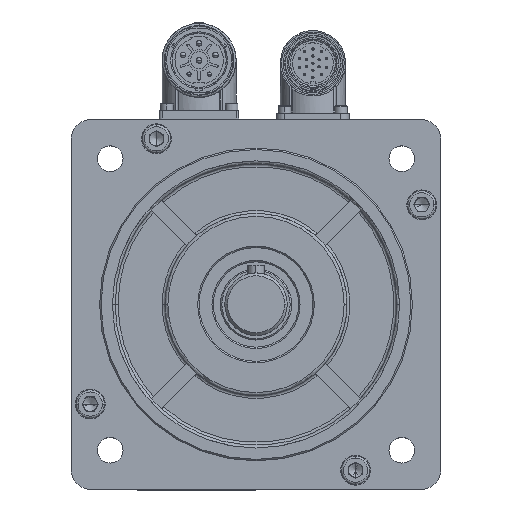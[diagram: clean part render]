
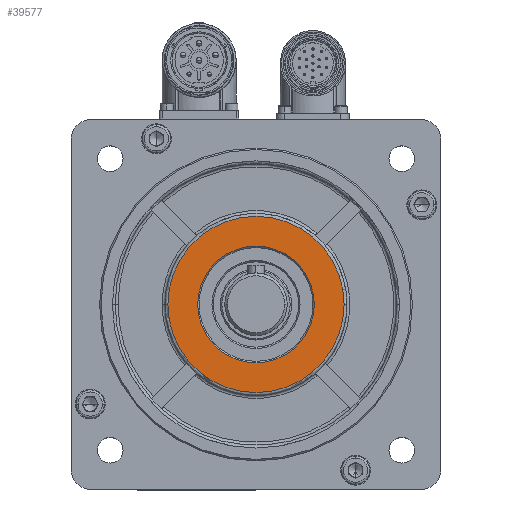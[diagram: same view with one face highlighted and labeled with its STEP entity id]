
A CAD part, top view. The second image highlights one B-rep face of the part: STEP entity #39577.
In plain terms, the highlighted planar face has unit normal (0, 0, 1).
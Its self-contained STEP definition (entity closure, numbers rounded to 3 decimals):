
#2844 = FACE_BOUND ( 'NONE', #48900, .T. ) ;
#3692 = CARTESIAN_POINT ( 'NONE',  ( 0., 0., 30.5 ) ) ;
#4033 = CARTESIAN_POINT ( 'NONE',  ( 0., 0., 30.5 ) ) ;
#5492 = DIRECTION ( 'NONE',  ( 0., 0., 1. ) ) ;
#7427 = ORIENTED_EDGE ( 'NONE', *, *, #60230, .T. ) ;
#8518 = DIRECTION ( 'NONE',  ( 0., 0., -1. ) ) ;
#8637 = EDGE_CURVE ( 'NONE', #62251, #12785, #62782, .T. ) ;
#8886 = DIRECTION ( 'NONE',  ( 0., 0., 1. ) ) ;
#12785 = VERTEX_POINT ( 'NONE', #54342 ) ;
#14249 = CIRCLE ( 'NONE', #43012, 20.5 ) ;
#16890 = ORIENTED_EDGE ( 'NONE', *, *, #46172, .T. ) ;
#18020 = DIRECTION ( 'NONE',  ( 0., 0., -1. ) ) ;
#18068 = ORIENTED_EDGE ( 'NONE', *, *, #24348, .T. ) ;
#18410 = ORIENTED_EDGE ( 'NONE', *, *, #8637, .T. ) ;
#22558 = CARTESIAN_POINT ( 'NONE',  ( -20.5, 0., 30.5 ) ) ;
#23566 = DIRECTION ( 'NONE',  ( -1., 0., 0. ) ) ;
#24348 = EDGE_CURVE ( 'NONE', #35821, #55200, #40552, .T. ) ;
#25118 = CARTESIAN_POINT ( 'NONE',  ( 20.5, 0., 30.5 ) ) ;
#25849 = CARTESIAN_POINT ( 'NONE',  ( -31., 0., 30.5 ) ) ;
#28456 = CARTESIAN_POINT ( 'NONE',  ( 0., 0., 30.5 ) ) ;
#30205 = AXIS2_PLACEMENT_3D ( 'NONE', #42559, #18020, #32843 ) ;
#32843 = DIRECTION ( 'NONE',  ( -1., 0., 0. ) ) ;
#32851 = DIRECTION ( 'NONE',  ( 0., 0., -1. ) ) ;
#35821 = VERTEX_POINT ( 'NONE', #25118 ) ;
#38741 = AXIS2_PLACEMENT_3D ( 'NONE', #38802, #5492, #39428 ) ;
#38802 = CARTESIAN_POINT ( 'NONE',  ( 0., 0., 30.5 ) ) ;
#39428 = DIRECTION ( 'NONE',  ( -1., 0., 0. ) ) ;
#39577 = ADVANCED_FACE ( 'NONE', ( #39947, #2844 ), #61031, .F. ) ;
#39947 = FACE_OUTER_BOUND ( 'NONE', #57584, .T. ) ;
#40552 = CIRCLE ( 'NONE', #59508, 20.5 ) ;
#42559 = CARTESIAN_POINT ( 'NONE',  ( -58.113, -58.113, 30.5 ) ) ;
#42767 = DIRECTION ( 'NONE',  ( -1., 0., 0. ) ) ;
#43012 = AXIS2_PLACEMENT_3D ( 'NONE', #4033, #32851, #42767 ) ;
#46172 = EDGE_CURVE ( 'NONE', #12785, #62251, #51864, .T. ) ;
#48900 = EDGE_LOOP ( 'NONE', ( #18068, #7427 ) ) ;
#51864 = CIRCLE ( 'NONE', #38741, 31. ) ;
#54061 = AXIS2_PLACEMENT_3D ( 'NONE', #28456, #8886, #23566 ) ;
#54342 = CARTESIAN_POINT ( 'NONE',  ( 31., 0., 30.5 ) ) ;
#55200 = VERTEX_POINT ( 'NONE', #22558 ) ;
#57584 = EDGE_LOOP ( 'NONE', ( #18410, #16890 ) ) ;
#59508 = AXIS2_PLACEMENT_3D ( 'NONE', #3692, #8518, #61940 ) ;
#60230 = EDGE_CURVE ( 'NONE', #55200, #35821, #14249, .T. ) ;
#61031 = PLANE ( 'NONE',  #30205 ) ;
#61940 = DIRECTION ( 'NONE',  ( -1., 0., 0. ) ) ;
#62251 = VERTEX_POINT ( 'NONE', #25849 ) ;
#62782 = CIRCLE ( 'NONE', #54061, 31. ) ;
